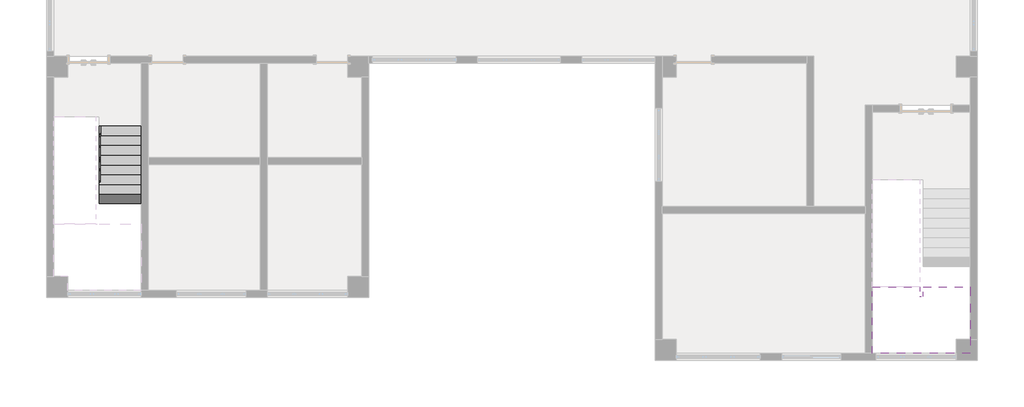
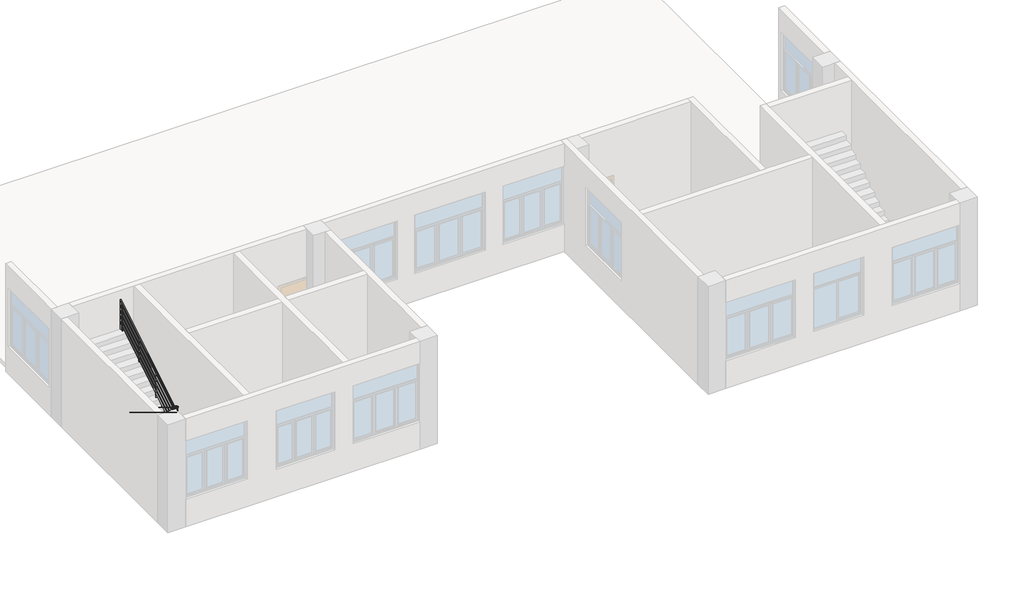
# One storey, part 2 of 3: 1 railing, 1 slab, 1 stair flight.
"""IFC4 building model written with IfcOpenShell, lengths in millimetres."""

from ifc_helpers import new_model, si_unit, point, frame, frame_2d, origin, place, context, project, spatial, circle_curve, ellipse_curve, trimmed, segment, composite_curve, outline, extrude, faceted_brep, element, save
from ifc_brep_helpers import plane_surface, cylinder_surface, advanced_brep

model = new_model("IFC4")

# Units and contexts
model_context = context("Model", 3, world=origin())
ifc_project = project(units=[si_unit("LENGTHUNIT", "METRE", prefix="MILLI")], contexts=[model_context])

# Site, building, storey
site = spatial("IfcSite", under=ifc_project)
building = spatial("IfcBuilding", under=site)
storey = spatial("IfcBuildingStorey", under=building, Name="标高 5", Elevation=11000.0)

# Railing
placement = place(None, origin())
element("IfcRailing", 1, ObjectType="900mm 圆管", at=placement, inside=storey, context=model_context, shape_type="SolidModel", body=[
    advanced_brep(
    [(-11176.3675258, -3836.6725016, 12046.183692), (-11136.3675258, -3836.6725016, 12046.183692), (-11176.3675258, -6629.9251242, 13737.7497212), (-11136.3675258, -6664.1401717, 13758.4700139)],
    [
        (0, 1, ellipse_curve(frame((-11156.3675258, -3836.6725016, 12046.183692), z_axis=(0.0, 1.0, 0.0), x_axis=(0.0, 0.0, -1.0)), 23.3815254, 20.0)),
        (1, 0, ellipse_curve(frame((-11156.3675258, -3836.6725016, 12046.183692), z_axis=(0.0, 1.0, 0.0), x_axis=(0.0, 0.0, -1.0)), 23.3815254, 20.0)),
        (2, 3, ellipse_curve(frame((-11156.3675258, -6647.032648, 13748.1098676), z_axis=(-0.707106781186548, -0.6048423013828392, 0.3662864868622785), x_axis=(-0.7071067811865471, 0.6048423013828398, -0.3662864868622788)), 28.2842712, 20.0)),
        (3, 2, ellipse_curve(frame((-11156.3675258, -6647.032648, 13748.1098676), z_axis=(-0.707106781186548, -0.6048423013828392, 0.3662864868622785), x_axis=(-0.7071067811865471, 0.6048423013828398, -0.3662864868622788)), 28.2842712, 20.0)),
        (0, 2),
        (3, 1),
    ],
    [
        plane_surface(frame((-11156.3675258, -3836.6725016, 12069.5652174), z_axis=(0.0, 1.0, 0.0), x_axis=(0.0, 0.0, -1.0))),
        plane_surface(frame((-11156.3675258, -6636.6725016, 13765.2173913), z_axis=(-0.707106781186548, -0.6048423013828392, 0.3662864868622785), x_axis=(0.7071067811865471, -0.60484230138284, 0.3662864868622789))),
        cylinder_surface(frame((-11156.3675258, -3847.032648, 12052.4576937), z_axis=(0.0, 0.8553761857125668, -0.518007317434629), x_axis=(1.0, 0.0, 0.0)), 20.0),
    ],
    [
        (0, [[1, 2]]),
        (1, [[3, 4]]),
        (2, [[-1, 5, -4, 6]]),
        (2, [[-2, -6, -3, -5]]),
    ],
),
    advanced_brep(
    [(-11183.8351959, -6642.0725016, 13745.2173913), (-11149.6201485, -6682.0725016, 13745.2173913), (-11307.1675258, -6642.0725016, 13745.2173913), (-11307.1675258, -6682.0725016, 13745.2173913)],
    [
        (0, 1, ellipse_curve(frame((-11166.7276722, -6662.0725016, 13745.2173913), z_axis=(0.707106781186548, 0.6048423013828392, -0.3662864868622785), x_axis=(0.707106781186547, -0.60484230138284, 0.36628648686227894)), 28.2842712, 20.0)),
        (1, 0, ellipse_curve(frame((-11166.7276722, -6662.0725016, 13745.2173913), z_axis=(0.707106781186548, 0.6048423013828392, -0.3662864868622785), x_axis=(0.707106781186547, -0.60484230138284, 0.36628648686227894)), 28.2842712, 20.0)),
        (2, 3, ellipse_curve(frame((-11307.1675258, -6662.0725016, 13745.2173913), z_axis=(-0.7071067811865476, 0.0, 0.7071067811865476), x_axis=(0.7071067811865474, 0.0, 0.7071067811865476)), 28.2842712, 20.0)),
        (3, 2, ellipse_curve(frame((-11307.1675258, -6662.0725016, 13745.2173913), z_axis=(-0.7071067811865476, 0.0, 0.7071067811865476), x_axis=(0.7071067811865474, 0.0, 0.7071067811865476)), 28.2842712, 20.0)),
        (0, 2),
        (3, 1),
    ],
    [
        plane_surface(frame((-11156.3675258, -6662.0725016, 13765.2173913), z_axis=(0.707106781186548, 0.6048423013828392, -0.3662864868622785), x_axis=(0.7071067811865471, -0.60484230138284, 0.3662864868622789))),
        plane_surface(frame((-11287.1675258, -6662.0725016, 13765.2173913), z_axis=(-0.7071067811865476, 0.0, 0.7071067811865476), x_axis=(0.7071067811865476, 0.0, 0.7071067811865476))),
        cylinder_surface(frame((-11156.3675258, -6662.0725016, 13745.2173913), z_axis=(1.0, 0.0, 0.0), x_axis=(0.0, -1.0, 0.0)), 20.0),
    ],
    [
        (0, [[1, 2]]),
        (1, [[3, 4]]),
        (2, [[-1, 5, -4, 6]]),
        (2, [[-2, -6, -3, -5]]),
    ],
),
    advanced_brep(
    [(-11307.1675258, -6642.0725016, 13745.2173913), (-11307.1675258, -6682.0725016, 13745.2173913), (-11307.1675258, -6642.0725016, 13884.7493716), (-11307.1675258, -6682.0725016, 13907.2888199)],
    [
        (0, 1, ellipse_curve(frame((-11307.1675258, -6662.0725016, 13745.2173913), z_axis=(0.7071067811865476, 0.0, -0.7071067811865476), x_axis=(-0.7071067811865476, 0.0, -0.7071067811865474)), 28.2842712, 20.0)),
        (1, 0, ellipse_curve(frame((-11307.1675258, -6662.0725016, 13745.2173913), z_axis=(0.7071067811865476, 0.0, -0.7071067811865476), x_axis=(-0.7071067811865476, 0.0, -0.7071067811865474)), 28.2842712, 20.0)),
        (2, 3, ellipse_curve(frame((-11307.1675258, -6662.0725016, 13896.0190957), z_axis=(0.0, 0.49091378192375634, 0.8712081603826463), x_axis=(0.0, 0.8712081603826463, -0.4909137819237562)), 22.9566261, 20.0)),
        (3, 2, ellipse_curve(frame((-11307.1675258, -6662.0725016, 13896.0190957), z_axis=(0.0, 0.49091378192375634, 0.8712081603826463), x_axis=(0.0, 0.8712081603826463, -0.4909137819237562)), 22.9566261, 20.0)),
        (0, 2),
        (3, 1),
    ],
    [
        plane_surface(frame((-11307.1675258, -6662.0725016, 13745.2173913), z_axis=(0.7071067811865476, 0.0, -0.7071067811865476), x_axis=(0.7071067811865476, 0.0, 0.7071067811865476))),
        plane_surface(frame((-11307.1675258, -6662.0725016, 13896.0190957), z_axis=(0.0, 0.49091378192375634, 0.8712081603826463), x_axis=(1.0, 0.0, 0.0))),
        cylinder_surface(frame((-11307.1675258, -6662.0725016, 13745.2173913), z_axis=(0.0, 0.0, -1.0), x_axis=(0.0, -1.0, 0.0)), 20.0),
    ],
    [
        (0, [[1, 2]]),
        (1, [[3, 4]]),
        (2, [[-1, 5, -4, 6]]),
        (2, [[-2, -6, -3, -5]]),
    ],
),
    advanced_brep(
    [(-11287.1675258, -6662.0725016, 13896.0190957), (-11327.1675258, -6662.0725016, 13896.0190957), (-11287.1675258, -3556.6725016, 15776.6184746), (-11327.1675258, -3556.6725016, 15776.6184746)],
    [
        (0, 1, ellipse_curve(frame((-11307.1675258, -6662.0725016, 13896.0190957), z_axis=(0.0, -0.49091378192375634, -0.8712081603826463), x_axis=(0.0, -0.871208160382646, 0.4909137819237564)), 22.9566261, 20.0)),
        (1, 0, ellipse_curve(frame((-11307.1675258, -6662.0725016, 13896.0190957), z_axis=(0.0, -0.49091378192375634, -0.8712081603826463), x_axis=(0.0, -0.871208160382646, 0.4909137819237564)), 22.9566261, 20.0)),
        (2, 3, ellipse_curve(frame((-11307.1675258, -3556.6725016, 15776.6184746), z_axis=(0.0, 1.0, 0.0), x_axis=(0.0, 0.0, -1.0)), 23.3815254, 20.0)),
        (3, 2, ellipse_curve(frame((-11307.1675258, -3556.6725016, 15776.6184746), z_axis=(0.0, 1.0, 0.0), x_axis=(0.0, 0.0, -1.0)), 23.3815254, 20.0)),
        (0, 2),
        (3, 1),
    ],
    [
        plane_surface(frame((-11307.1675258, -6682.0725016, 13907.2888199), z_axis=(0.0, -0.49091378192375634, -0.8712081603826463), x_axis=(1.0, 0.0, 0.0))),
        plane_surface(frame((-11307.1675258, -3556.6725016, 15800.0), z_axis=(0.0, 1.0, 0.0), x_axis=(0.0, 0.0, 1.0))),
        cylinder_surface(frame((-11307.1675258, -6671.7123553, 13890.1812962), z_axis=(0.0, -0.8553761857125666, -0.5180073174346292), x_axis=(-1.0, 0.0, 0.0)), 20.0),
    ],
    [
        (0, [[1, 2]]),
        (1, [[3, 4]]),
        (2, [[-1, 5, -4, 6]]),
        (2, [[-2, -6, -3, -5]]),
    ],
),
    advanced_brep(
    [(-11141.3675258, -3836.6725016, 11852.0290734), (-11171.3675258, -3836.6725016, 11852.0290734), (-11141.3675258, -6640.8603907, 13550.2173913), (-11171.3675258, -6640.8603907, 13550.2173913), (-11141.3675258, -6647.0725016, 13550.2173913), (-11171.3675258, -6647.0725016, 13550.2173913)],
    [
        (0, 1, ellipse_curve(frame((-11156.3675258, -3836.6725016, 11852.0290734), z_axis=(0.0, 1.0, 0.0), x_axis=(0.0, 0.0, -1.0)), 17.536144, 15.0)),
        (1, 0, ellipse_curve(frame((-11156.3675258, -3836.6725016, 11852.0290734), z_axis=(0.0, 1.0, 0.0), x_axis=(0.0, 0.0, -1.0)), 17.536144, 15.0)),
        (0, 2),
        (2, 3, ellipse_curve(frame((-11156.3675258, -6640.8603907, 13550.2173913), z_axis=(0.0, 0.9631656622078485, -0.26890873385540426), x_axis=(0.0, -0.26890873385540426, -0.9631656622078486)), 15.5736449, 15.0)),
        (3, 1),
        (3, 2, ellipse_curve(frame((-11156.3675258, -6640.8603907, 13550.2173913), z_axis=(0.0, 0.9631656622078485, -0.26890873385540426), x_axis=(0.0, -0.26890873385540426, -0.9631656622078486)), 15.5736449, 15.0)),
        (4, 5, circle_curve(frame((-11156.3675258, -6647.0725016, 13550.2173913), z_axis=(0.0, -1.0, 0.0), x_axis=(-1.0, 0.0, 0.0)), 15.0)),
        (5, 4, circle_curve(frame((-11156.3675258, -6647.0725016, 13550.2173913), z_axis=(0.0, -1.0, 0.0), x_axis=(-1.0, 0.0, 0.0)), 15.0)),
        (2, 4),
        (5, 3),
    ],
    [
        plane_surface(frame((-11156.3675258, -3836.6725016, 11869.5652174), z_axis=(0.0, 1.0, 0.0), x_axis=(0.0, 0.0, -1.0))),
        cylinder_surface(frame((-11156.3675258, -3844.4426114, 11856.7345746), z_axis=(0.0, 0.8553761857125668, -0.518007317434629), x_axis=(-1.0, 0.0, 0.0)), 15.0),
        plane_surface(frame((-11156.3675258, -6647.0725016, 13565.2173913), z_axis=(0.0, -1.0, 0.0), x_axis=(0.0, 0.0, -1.0))),
        cylinder_surface(frame((-11156.3675258, -6636.6725016, 13550.2173913), z_axis=(0.0, 1.0, 0.0), x_axis=(-1.0, 0.0, 0.0)), 15.0),
    ],
    [
        (0, [[1, 2]]),
        (1, [[-1, 3, 4, 5]]),
        (1, [[-2, -5, 6, -3]]),
        (2, [[7, 8]]),
        (3, [[-4, 9, -8, 10]]),
        (3, [[-6, -10, -7, -9]]),
    ],
),
    advanced_brep(
    [(-11141.3675258, -3836.6725016, 11652.0290734), (-11171.3675258, -3836.6725016, 11652.0290734), (-11141.3675258, -6640.8603907, 13350.2173913), (-11171.3675258, -6640.8603907, 13350.2173913), (-11141.3675258, -6647.0725016, 13350.2173913), (-11171.3675258, -6647.0725016, 13350.2173913)],
    [
        (0, 1, ellipse_curve(frame((-11156.3675258, -3836.6725016, 11652.0290734), z_axis=(0.0, 1.0, 0.0), x_axis=(0.0, 0.0, -1.0)), 17.536144, 15.0)),
        (1, 0, ellipse_curve(frame((-11156.3675258, -3836.6725016, 11652.0290734), z_axis=(0.0, 1.0, 0.0), x_axis=(0.0, 0.0, -1.0)), 17.536144, 15.0)),
        (0, 2),
        (2, 3, ellipse_curve(frame((-11156.3675258, -6640.8603907, 13350.2173913), z_axis=(0.0, 0.9631656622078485, -0.26890873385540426), x_axis=(0.0, -0.26890873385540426, -0.9631656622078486)), 15.5736449, 15.0)),
        (3, 1),
        (3, 2, ellipse_curve(frame((-11156.3675258, -6640.8603907, 13350.2173913), z_axis=(0.0, 0.9631656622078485, -0.26890873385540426), x_axis=(0.0, -0.26890873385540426, -0.9631656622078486)), 15.5736449, 15.0)),
        (4, 5, circle_curve(frame((-11156.3675258, -6647.0725016, 13350.2173913), z_axis=(0.0, -1.0, 0.0), x_axis=(-1.0, 0.0, 0.0)), 15.0)),
        (5, 4, circle_curve(frame((-11156.3675258, -6647.0725016, 13350.2173913), z_axis=(0.0, -1.0, 0.0), x_axis=(-1.0, 0.0, 0.0)), 15.0)),
        (2, 4),
        (5, 3),
    ],
    [
        plane_surface(frame((-11156.3675258, -3836.6725016, 11669.5652174), z_axis=(0.0, 1.0, 0.0), x_axis=(0.0, 0.0, -1.0))),
        cylinder_surface(frame((-11156.3675258, -3844.4426114, 11656.7345746), z_axis=(0.0, 0.8553761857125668, -0.518007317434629), x_axis=(-1.0, 0.0, 0.0)), 15.0),
        plane_surface(frame((-11156.3675258, -6647.0725016, 13365.2173913), z_axis=(0.0, -1.0, 0.0), x_axis=(0.0, 0.0, -1.0))),
        cylinder_surface(frame((-11156.3675258, -6636.6725016, 13350.2173913), z_axis=(0.0, 1.0, 0.0), x_axis=(-1.0, 0.0, 0.0)), 15.0),
    ],
    [
        (0, [[1, 2]]),
        (1, [[-1, 3, 4, 5]]),
        (1, [[-2, -5, 6, -3]]),
        (2, [[7, 8]]),
        (3, [[-4, 9, -8, 10]]),
        (3, [[-6, -10, -7, -9]]),
    ],
),
    advanced_brep(
    [(-11141.3675258, -3836.6725016, 11452.0290734), (-11171.3675258, -3836.6725016, 11452.0290734), (-11141.3675258, -6640.8603907, 13150.2173913), (-11171.3675258, -6640.8603907, 13150.2173913), (-11141.3675258, -6647.0725016, 13150.2173913), (-11171.3675258, -6647.0725016, 13150.2173913)],
    [
        (0, 1, ellipse_curve(frame((-11156.3675258, -3836.6725016, 11452.0290734), z_axis=(0.0, 1.0, 0.0), x_axis=(0.0, 0.0, -1.0)), 17.536144, 15.0)),
        (1, 0, ellipse_curve(frame((-11156.3675258, -3836.6725016, 11452.0290734), z_axis=(0.0, 1.0, 0.0), x_axis=(0.0, 0.0, -1.0)), 17.536144, 15.0)),
        (0, 2),
        (2, 3, ellipse_curve(frame((-11156.3675258, -6640.8603907, 13150.2173913), z_axis=(0.0, 0.9631656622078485, -0.26890873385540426), x_axis=(0.0, -0.26890873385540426, -0.9631656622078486)), 15.5736449, 15.0)),
        (3, 1),
        (3, 2, ellipse_curve(frame((-11156.3675258, -6640.8603907, 13150.2173913), z_axis=(0.0, 0.9631656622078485, -0.26890873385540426), x_axis=(0.0, -0.26890873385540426, -0.9631656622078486)), 15.5736449, 15.0)),
        (4, 5, circle_curve(frame((-11156.3675258, -6647.0725016, 13150.2173913), z_axis=(0.0, -1.0, 0.0), x_axis=(-1.0, 0.0, 0.0)), 15.0)),
        (5, 4, circle_curve(frame((-11156.3675258, -6647.0725016, 13150.2173913), z_axis=(0.0, -1.0, 0.0), x_axis=(-1.0, 0.0, 0.0)), 15.0)),
        (2, 4),
        (5, 3),
    ],
    [
        plane_surface(frame((-11156.3675258, -3836.6725016, 11469.5652174), z_axis=(0.0, 1.0, 0.0), x_axis=(0.0, 0.0, -1.0))),
        cylinder_surface(frame((-11156.3675258, -3844.4426114, 11456.7345746), z_axis=(0.0, 0.8553761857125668, -0.518007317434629), x_axis=(-1.0, 0.0, 0.0)), 15.0),
        plane_surface(frame((-11156.3675258, -6647.0725016, 13165.2173913), z_axis=(0.0, -1.0, 0.0), x_axis=(0.0, 0.0, -1.0))),
        cylinder_surface(frame((-11156.3675258, -6636.6725016, 13150.2173913), z_axis=(0.0, 1.0, 0.0), x_axis=(-1.0, 0.0, 0.0)), 15.0),
    ],
    [
        (0, [[1, 2]]),
        (1, [[-1, 3, 4, 5]]),
        (1, [[-2, -5, 6, -3]]),
        (2, [[7, 8]]),
        (3, [[-4, 9, -8, 10]]),
        (3, [[-6, -10, -7, -9]]),
    ],
),
    advanced_brep(
    [(-11141.3675258, -3836.6725016, 11252.0290734), (-11171.3675258, -3836.6725016, 11252.0290734), (-11141.3675258, -6640.8603907, 12950.2173913), (-11171.3675258, -6640.8603907, 12950.2173913), (-11141.3675258, -6647.0725016, 12950.2173913), (-11171.3675258, -6647.0725016, 12950.2173913)],
    [
        (0, 1, ellipse_curve(frame((-11156.3675258, -3836.6725016, 11252.0290734), z_axis=(0.0, 1.0, 0.0), x_axis=(0.0, 0.0, -1.0)), 17.536144, 15.0)),
        (1, 0, ellipse_curve(frame((-11156.3675258, -3836.6725016, 11252.0290734), z_axis=(0.0, 1.0, 0.0), x_axis=(0.0, 0.0, -1.0)), 17.536144, 15.0)),
        (0, 2),
        (2, 3, ellipse_curve(frame((-11156.3675258, -6640.8603907, 12950.2173913), z_axis=(0.0, 0.9631656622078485, -0.26890873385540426), x_axis=(0.0, -0.26890873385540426, -0.9631656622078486)), 15.5736449, 15.0)),
        (3, 1),
        (3, 2, ellipse_curve(frame((-11156.3675258, -6640.8603907, 12950.2173913), z_axis=(0.0, 0.9631656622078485, -0.26890873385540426), x_axis=(0.0, -0.26890873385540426, -0.9631656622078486)), 15.5736449, 15.0)),
        (4, 5, circle_curve(frame((-11156.3675258, -6647.0725016, 12950.2173913), z_axis=(0.0, -1.0, 0.0), x_axis=(-1.0, 0.0, 0.0)), 15.0)),
        (5, 4, circle_curve(frame((-11156.3675258, -6647.0725016, 12950.2173913), z_axis=(0.0, -1.0, 0.0), x_axis=(-1.0, 0.0, 0.0)), 15.0)),
        (2, 4),
        (5, 3),
    ],
    [
        plane_surface(frame((-11156.3675258, -3836.6725016, 11269.5652174), z_axis=(0.0, 1.0, 0.0), x_axis=(0.0, 0.0, -1.0))),
        cylinder_surface(frame((-11156.3675258, -3844.4426114, 11256.7345746), z_axis=(0.0, 0.8553761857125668, -0.518007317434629), x_axis=(-1.0, 0.0, 0.0)), 15.0),
        plane_surface(frame((-11156.3675258, -6647.0725016, 12965.2173913), z_axis=(0.0, -1.0, 0.0), x_axis=(0.0, 0.0, -1.0))),
        cylinder_surface(frame((-11156.3675258, -6636.6725016, 12950.2173913), z_axis=(0.0, 1.0, 0.0), x_axis=(-1.0, 0.0, 0.0)), 15.0),
    ],
    [
        (0, [[1, 2]]),
        (1, [[-1, 3, 4, 5]]),
        (1, [[-2, -5, 6, -3]]),
        (2, [[7, 8]]),
        (3, [[-4, 9, -8, 10]]),
        (3, [[-6, -10, -7, -9]]),
    ],
),
    advanced_brep(
    [(-11141.3675258, -6677.0725016, 13550.2173913), (-11141.3675258, -6647.0725016, 13550.2173913), (-11292.1675258, -6677.0725016, 13550.2173913), (-11292.1675258, -6647.0725016, 13550.2173913)],
    [
        (0, 1, circle_curve(frame((-11141.3675258, -6662.0725016, 13550.2173913), z_axis=(1.0, 0.0, 0.0), x_axis=(0.0, 1.0, 0.0)), 15.0)),
        (1, 0, circle_curve(frame((-11141.3675258, -6662.0725016, 13550.2173913), z_axis=(1.0, 0.0, 0.0), x_axis=(0.0, 1.0, 0.0)), 15.0)),
        (2, 3, circle_curve(frame((-11292.1675258, -6662.0725016, 13550.2173913), z_axis=(-1.0, 0.0, 0.0), x_axis=(0.0, 1.0, 0.0)), 15.0)),
        (3, 2, circle_curve(frame((-11292.1675258, -6662.0725016, 13550.2173913), z_axis=(-1.0, 0.0, 0.0), x_axis=(0.0, 1.0, 0.0)), 15.0)),
        (0, 2),
        (3, 1),
    ],
    [
        plane_surface(frame((-11141.3675258, -6662.0725016, 13565.2173913), z_axis=(1.0, 0.0, 0.0), x_axis=(0.0, -1.0, 0.0))),
        plane_surface(frame((-11292.1675258, -6662.0725016, 13565.2173913), z_axis=(-1.0, 0.0, 0.0), x_axis=(0.0, -1.0, 0.0))),
        cylinder_surface(frame((-11141.3675258, -6662.0725016, 13550.2173913), z_axis=(1.0, 0.0, 0.0), x_axis=(0.0, 1.0, 0.0)), 15.0),
    ],
    [
        (0, [[1, 2]]),
        (1, [[3, 4]]),
        (2, [[-1, 5, -4, 6]]),
        (2, [[-2, -6, -3, -5]]),
    ],
),
    advanced_brep(
    [(-11322.1675258, -6677.0725016, 13692.7806261), (-11292.1675258, -6677.0725016, 13692.7806261), (-11322.1675258, -3556.6725016, 15582.463856), (-11292.1675258, -3556.6725016, 15582.463856)],
    [
        (0, 1, ellipse_curve(frame((-11307.1675258, -6677.0725016, 13692.7806261), z_axis=(0.0, -1.0, 0.0), x_axis=(0.0, 0.0, -1.0)), 17.536144, 15.0)),
        (1, 0, ellipse_curve(frame((-11307.1675258, -6677.0725016, 13692.7806261), z_axis=(0.0, -1.0, 0.0), x_axis=(0.0, 0.0, -1.0)), 17.536144, 15.0)),
        (2, 3, ellipse_curve(frame((-11307.1675258, -3556.6725016, 15582.463856), z_axis=(0.0, 1.0, 0.0), x_axis=(0.0, 0.0, -1.0)), 17.536144, 15.0)),
        (3, 2, ellipse_curve(frame((-11307.1675258, -3556.6725016, 15582.463856), z_axis=(0.0, 1.0, 0.0), x_axis=(0.0, 0.0, -1.0)), 17.536144, 15.0)),
        (0, 2),
        (3, 1),
    ],
    [
        plane_surface(frame((-11307.1675258, -6677.0725016, 13710.3167702), z_axis=(0.0, -1.0, 0.0), x_axis=(0.0, 0.0, 1.0))),
        plane_surface(frame((-11307.1675258, -3556.6725016, 15600.0), z_axis=(0.0, 1.0, 0.0), x_axis=(0.0, 0.0, 1.0))),
        cylinder_surface(frame((-11307.1675258, -6669.3023918, 13697.4861274), z_axis=(0.0, -0.8553761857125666, -0.5180073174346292), x_axis=(1.0, 0.0, 0.0)), 15.0),
    ],
    [
        (0, [[1, 2]]),
        (1, [[3, 4]]),
        (2, [[-1, 5, -4, 6]]),
        (2, [[-2, -6, -3, -5]]),
    ],
),
    advanced_brep(
    [(-11141.3675258, -6677.0725016, 13350.2173913), (-11141.3675258, -6647.0725016, 13350.2173913), (-11292.1675258, -6677.0725016, 13350.2173913), (-11292.1675258, -6647.0725016, 13350.2173913)],
    [
        (0, 1, circle_curve(frame((-11141.3675258, -6662.0725016, 13350.2173913), z_axis=(1.0, 0.0, 0.0), x_axis=(0.0, 1.0, 0.0)), 15.0)),
        (1, 0, circle_curve(frame((-11141.3675258, -6662.0725016, 13350.2173913), z_axis=(1.0, 0.0, 0.0), x_axis=(0.0, 1.0, 0.0)), 15.0)),
        (2, 3, circle_curve(frame((-11292.1675258, -6662.0725016, 13350.2173913), z_axis=(-1.0, 0.0, 0.0), x_axis=(0.0, 1.0, 0.0)), 15.0)),
        (3, 2, circle_curve(frame((-11292.1675258, -6662.0725016, 13350.2173913), z_axis=(-1.0, 0.0, 0.0), x_axis=(0.0, 1.0, 0.0)), 15.0)),
        (0, 2),
        (3, 1),
    ],
    [
        plane_surface(frame((-11141.3675258, -6662.0725016, 13365.2173913), z_axis=(1.0, 0.0, 0.0), x_axis=(0.0, -1.0, 0.0))),
        plane_surface(frame((-11292.1675258, -6662.0725016, 13365.2173913), z_axis=(-1.0, 0.0, 0.0), x_axis=(0.0, -1.0, 0.0))),
        cylinder_surface(frame((-11141.3675258, -6662.0725016, 13350.2173913), z_axis=(1.0, 0.0, 0.0), x_axis=(0.0, 1.0, 0.0)), 15.0),
    ],
    [
        (0, [[1, 2]]),
        (1, [[3, 4]]),
        (2, [[-1, 5, -4, 6]]),
        (2, [[-2, -6, -3, -5]]),
    ],
),
    advanced_brep(
    [(-11322.1675258, -6677.0725016, 13492.7806261), (-11292.1675258, -6677.0725016, 13492.7806261), (-11322.1675258, -3556.6725016, 15382.463856), (-11292.1675258, -3556.6725016, 15382.463856)],
    [
        (0, 1, ellipse_curve(frame((-11307.1675258, -6677.0725016, 13492.7806261), z_axis=(0.0, -1.0, 0.0), x_axis=(0.0, 0.0, -1.0)), 17.536144, 15.0)),
        (1, 0, ellipse_curve(frame((-11307.1675258, -6677.0725016, 13492.7806261), z_axis=(0.0, -1.0, 0.0), x_axis=(0.0, 0.0, -1.0)), 17.536144, 15.0)),
        (2, 3, ellipse_curve(frame((-11307.1675258, -3556.6725016, 15382.463856), z_axis=(0.0, 1.0, 0.0), x_axis=(0.0, 0.0, -1.0)), 17.536144, 15.0)),
        (3, 2, ellipse_curve(frame((-11307.1675258, -3556.6725016, 15382.463856), z_axis=(0.0, 1.0, 0.0), x_axis=(0.0, 0.0, -1.0)), 17.536144, 15.0)),
        (0, 2),
        (3, 1),
    ],
    [
        plane_surface(frame((-11307.1675258, -6677.0725016, 13510.3167702), z_axis=(0.0, -1.0, 0.0), x_axis=(0.0, 0.0, 1.0))),
        plane_surface(frame((-11307.1675258, -3556.6725016, 15400.0), z_axis=(0.0, 1.0, 0.0), x_axis=(0.0, 0.0, 1.0))),
        cylinder_surface(frame((-11307.1675258, -6669.3023918, 13497.4861274), z_axis=(0.0, -0.8553761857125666, -0.5180073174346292), x_axis=(1.0, 0.0, 0.0)), 15.0),
    ],
    [
        (0, [[1, 2]]),
        (1, [[3, 4]]),
        (2, [[-1, 5, -4, 6]]),
        (2, [[-2, -6, -3, -5]]),
    ],
),
    advanced_brep(
    [(-11141.3675258, -6677.0725016, 13150.2173913), (-11141.3675258, -6647.0725016, 13150.2173913), (-11292.1675258, -6677.0725016, 13150.2173913), (-11292.1675258, -6647.0725016, 13150.2173913)],
    [
        (0, 1, circle_curve(frame((-11141.3675258, -6662.0725016, 13150.2173913), z_axis=(1.0, 0.0, 0.0), x_axis=(0.0, 1.0, 0.0)), 15.0)),
        (1, 0, circle_curve(frame((-11141.3675258, -6662.0725016, 13150.2173913), z_axis=(1.0, 0.0, 0.0), x_axis=(0.0, 1.0, 0.0)), 15.0)),
        (2, 3, circle_curve(frame((-11292.1675258, -6662.0725016, 13150.2173913), z_axis=(-1.0, 0.0, 0.0), x_axis=(0.0, 1.0, 0.0)), 15.0)),
        (3, 2, circle_curve(frame((-11292.1675258, -6662.0725016, 13150.2173913), z_axis=(-1.0, 0.0, 0.0), x_axis=(0.0, 1.0, 0.0)), 15.0)),
        (0, 2),
        (3, 1),
    ],
    [
        plane_surface(frame((-11141.3675258, -6662.0725016, 13165.2173913), z_axis=(1.0, 0.0, 0.0), x_axis=(0.0, -1.0, 0.0))),
        plane_surface(frame((-11292.1675258, -6662.0725016, 13165.2173913), z_axis=(-1.0, 0.0, 0.0), x_axis=(0.0, -1.0, 0.0))),
        cylinder_surface(frame((-11141.3675258, -6662.0725016, 13150.2173913), z_axis=(1.0, 0.0, 0.0), x_axis=(0.0, 1.0, 0.0)), 15.0),
    ],
    [
        (0, [[1, 2]]),
        (1, [[3, 4]]),
        (2, [[-1, 5, -4, 6]]),
        (2, [[-2, -6, -3, -5]]),
    ],
),
    advanced_brep(
    [(-11322.1675258, -6677.0725016, 13292.7806261), (-11292.1675258, -6677.0725016, 13292.7806261), (-11322.1675258, -3556.6725016, 15182.463856), (-11292.1675258, -3556.6725016, 15182.463856)],
    [
        (0, 1, ellipse_curve(frame((-11307.1675258, -6677.0725016, 13292.7806261), z_axis=(0.0, -1.0, 0.0), x_axis=(0.0, 0.0, -1.0)), 17.536144, 15.0)),
        (1, 0, ellipse_curve(frame((-11307.1675258, -6677.0725016, 13292.7806261), z_axis=(0.0, -1.0, 0.0), x_axis=(0.0, 0.0, -1.0)), 17.536144, 15.0)),
        (2, 3, ellipse_curve(frame((-11307.1675258, -3556.6725016, 15182.463856), z_axis=(0.0, 1.0, 0.0), x_axis=(0.0, 0.0, -1.0)), 17.536144, 15.0)),
        (3, 2, ellipse_curve(frame((-11307.1675258, -3556.6725016, 15182.463856), z_axis=(0.0, 1.0, 0.0), x_axis=(0.0, 0.0, -1.0)), 17.536144, 15.0)),
        (0, 2),
        (3, 1),
    ],
    [
        plane_surface(frame((-11307.1675258, -6677.0725016, 13310.3167702), z_axis=(0.0, -1.0, 0.0), x_axis=(0.0, 0.0, 1.0))),
        plane_surface(frame((-11307.1675258, -3556.6725016, 15200.0), z_axis=(0.0, 1.0, 0.0), x_axis=(0.0, 0.0, 1.0))),
        cylinder_surface(frame((-11307.1675258, -6669.3023918, 13297.4861274), z_axis=(0.0, -0.8553761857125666, -0.5180073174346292), x_axis=(1.0, 0.0, 0.0)), 15.0),
    ],
    [
        (0, [[1, 2]]),
        (1, [[3, 4]]),
        (2, [[-1, 5, -4, 6]]),
        (2, [[-2, -6, -3, -5]]),
    ],
),
    advanced_brep(
    [(-11141.3675258, -6677.0725016, 12950.2173913), (-11141.3675258, -6647.0725016, 12950.2173913), (-11292.1675258, -6677.0725016, 12950.2173913), (-11292.1675258, -6647.0725016, 12950.2173913)],
    [
        (0, 1, circle_curve(frame((-11141.3675258, -6662.0725016, 12950.2173913), z_axis=(1.0, 0.0, 0.0), x_axis=(0.0, 1.0, 0.0)), 15.0)),
        (1, 0, circle_curve(frame((-11141.3675258, -6662.0725016, 12950.2173913), z_axis=(1.0, 0.0, 0.0), x_axis=(0.0, 1.0, 0.0)), 15.0)),
        (2, 3, circle_curve(frame((-11292.1675258, -6662.0725016, 12950.2173913), z_axis=(-1.0, 0.0, 0.0), x_axis=(0.0, 1.0, 0.0)), 15.0)),
        (3, 2, circle_curve(frame((-11292.1675258, -6662.0725016, 12950.2173913), z_axis=(-1.0, 0.0, 0.0), x_axis=(0.0, 1.0, 0.0)), 15.0)),
        (0, 2),
        (3, 1),
    ],
    [
        plane_surface(frame((-11141.3675258, -6662.0725016, 12965.2173913), z_axis=(1.0, 0.0, 0.0), x_axis=(0.0, -1.0, 0.0))),
        plane_surface(frame((-11292.1675258, -6662.0725016, 12965.2173913), z_axis=(-1.0, 0.0, 0.0), x_axis=(0.0, -1.0, 0.0))),
        cylinder_surface(frame((-11141.3675258, -6662.0725016, 12950.2173913), z_axis=(1.0, 0.0, 0.0), x_axis=(0.0, 1.0, 0.0)), 15.0),
    ],
    [
        (0, [[1, 2]]),
        (1, [[3, 4]]),
        (2, [[-1, 5, -4, 6]]),
        (2, [[-2, -6, -3, -5]]),
    ],
),
    advanced_brep(
    [(-11322.1675258, -6677.0725016, 13092.7806261), (-11292.1675258, -6677.0725016, 13092.7806261), (-11322.1675258, -3556.6725016, 14982.463856), (-11292.1675258, -3556.6725016, 14982.463856)],
    [
        (0, 1, ellipse_curve(frame((-11307.1675258, -6677.0725016, 13092.7806261), z_axis=(0.0, -1.0, 0.0), x_axis=(0.0, 0.0, -1.0)), 17.536144, 15.0)),
        (1, 0, ellipse_curve(frame((-11307.1675258, -6677.0725016, 13092.7806261), z_axis=(0.0, -1.0, 0.0), x_axis=(0.0, 0.0, -1.0)), 17.536144, 15.0)),
        (2, 3, ellipse_curve(frame((-11307.1675258, -3556.6725016, 14982.463856), z_axis=(0.0, 1.0, 0.0), x_axis=(0.0, 0.0, -1.0)), 17.536144, 15.0)),
        (3, 2, ellipse_curve(frame((-11307.1675258, -3556.6725016, 14982.463856), z_axis=(0.0, 1.0, 0.0), x_axis=(0.0, 0.0, -1.0)), 17.536144, 15.0)),
        (0, 2),
        (3, 1),
    ],
    [
        plane_surface(frame((-11307.1675258, -6677.0725016, 13110.3167702), z_axis=(0.0, -1.0, 0.0), x_axis=(0.0, 0.0, 1.0))),
        plane_surface(frame((-11307.1675258, -3556.6725016, 15000.0), z_axis=(0.0, 1.0, 0.0), x_axis=(0.0, 0.0, 1.0))),
        cylinder_surface(frame((-11307.1675258, -6669.3023918, 13097.4861274), z_axis=(0.0, -0.8553761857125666, -0.5180073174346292), x_axis=(1.0, 0.0, 0.0)), 15.0),
    ],
    [
        (0, [[1, 2]]),
        (1, [[3, 4]]),
        (2, [[-1, 5, -4, 6]]),
        (2, [[-2, -6, -3, -5]]),
    ],
),
    advanced_brep(
    [(-11294.6675258, -3662.0725016, 15689.4077567), (-11294.6675258, -3662.0725016, 14730.4347826), (-11319.6675258, -3662.0725016, 14730.4347826), (-11319.6675258, -3662.0725016, 15689.4077567)],
    [
        (0, 1),
        (1, 2, circle_curve(frame((-11307.1675258, -3662.0725016, 14730.4347826), z_axis=(0.0, 0.0, 1.0), x_axis=(-1.0, 0.0, 0.0)), 12.5)),
        (2, 3),
        (3, 0, ellipse_curve(frame((-11307.1675258, -3662.0725016, 15689.4077567), z_axis=(0.0, 0.5180073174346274, -0.8553761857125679), x_axis=(0.0, 0.8553761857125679, 0.5180073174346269)), 14.6134534, 12.5)),
        (0, 3, ellipse_curve(frame((-11307.1675258, -3662.0725016, 15689.4077567), z_axis=(0.0, 0.5180073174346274, -0.8553761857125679), x_axis=(0.0, 0.8553761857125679, 0.5180073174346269)), 14.6134534, 12.5)),
        (2, 1, circle_curve(frame((-11307.1675258, -3662.0725016, 14730.4347826), z_axis=(0.0, 0.0, 1.0), x_axis=(-1.0, 0.0, 0.0)), 12.5)),
    ],
    [
        cylinder_surface(frame((-11307.1675258, -3662.0725016, 14630.4347826), z_axis=(0.0, 0.0, 1.0), x_axis=(-1.0, 0.0, 0.0)), 12.5),
        plane_surface(frame((-11332.1675258, -3637.0725016, 15704.5475082), z_axis=(0.0, -0.5180073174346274, 0.8553761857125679), x_axis=(1.0, 0.0, 0.0))),
        plane_surface(frame((-11332.1675258, -3687.0725016, 14730.4347826), z_axis=(0.0, 0.0, -1.0), x_axis=(1.0, 0.0, 0.0))),
    ],
    [
        (0, [[1, 2, 3, 4]]),
        (0, [[-1, 5, -3, 6]]),
        (1, [[-4, -5]]),
        (2, [[-2, -6]]),
    ],
),
    advanced_brep(
    [(-11294.6675258, -4662.0725016, 15083.8176946), (-11294.6675258, -4662.0725016, 14221.7391304), (-11319.6675258, -4662.0725016, 14221.7391304), (-11319.6675258, -4662.0725016, 15083.8176946)],
    [
        (0, 1),
        (1, 2, circle_curve(frame((-11307.1675258, -4662.0725016, 14221.7391304), z_axis=(0.0, 0.0, 1.0), x_axis=(-1.0, 0.0, 0.0)), 12.5)),
        (2, 3),
        (3, 0, ellipse_curve(frame((-11307.1675258, -4662.0725016, 15083.8176946), z_axis=(0.0, 0.518007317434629, -0.8553761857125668), x_axis=(0.0, 0.8553761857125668, 0.5180073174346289)), 14.6134534, 12.5)),
        (0, 3, ellipse_curve(frame((-11307.1675258, -4662.0725016, 15083.8176946), z_axis=(0.0, 0.518007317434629, -0.8553761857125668), x_axis=(0.0, 0.8553761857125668, 0.5180073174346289)), 14.6134534, 12.5)),
        (2, 1, circle_curve(frame((-11307.1675258, -4662.0725016, 14221.7391304), z_axis=(0.0, 0.0, 1.0), x_axis=(-1.0, 0.0, 0.0)), 12.5)),
    ],
    [
        cylinder_surface(frame((-11307.1675258, -4662.0725016, 14121.7391304), z_axis=(0.0, 0.0, 1.0), x_axis=(-1.0, 0.0, 0.0)), 12.5),
        plane_surface(frame((-11332.1675258, -4637.0725016, 15098.9574461), z_axis=(0.0, -0.518007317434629, 0.8553761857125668), x_axis=(1.0, 0.0, 0.0))),
        plane_surface(frame((-11332.1675258, -4687.0725016, 14221.7391304), z_axis=(0.0, 0.0, -1.0), x_axis=(1.0, 0.0, 0.0))),
    ],
    [
        (0, [[1, 2, 3, 4]]),
        (0, [[-1, 5, -3, 6]]),
        (1, [[-4, -5]]),
        (2, [[-2, -6]]),
    ],
),
    advanced_brep(
    [(-11294.6675258, -5662.0725016, 14478.2276325), (-11294.6675258, -5662.0725016, 13543.4782609), (-11319.6675258, -5662.0725016, 13543.4782609), (-11319.6675258, -5662.0725016, 14478.2276325)],
    [
        (0, 1),
        (1, 2, circle_curve(frame((-11307.1675258, -5662.0725016, 13543.4782609), z_axis=(0.0, 0.0, 1.0), x_axis=(-1.0, 0.0, 0.0)), 12.5)),
        (2, 3),
        (3, 0, ellipse_curve(frame((-11307.1675258, -5662.0725016, 14478.2276325), z_axis=(0.0, 0.518007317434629, -0.8553761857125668), x_axis=(0.0, 0.8553761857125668, 0.5180073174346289)), 14.6134534, 12.5)),
        (0, 3, ellipse_curve(frame((-11307.1675258, -5662.0725016, 14478.2276325), z_axis=(0.0, 0.518007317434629, -0.8553761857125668), x_axis=(0.0, 0.8553761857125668, 0.5180073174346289)), 14.6134534, 12.5)),
        (2, 1, circle_curve(frame((-11307.1675258, -5662.0725016, 13543.4782609), z_axis=(0.0, 0.0, 1.0), x_axis=(-1.0, 0.0, 0.0)), 12.5)),
    ],
    [
        cylinder_surface(frame((-11307.1675258, -5662.0725016, 13443.4782609), z_axis=(0.0, 0.0, 1.0), x_axis=(-1.0, 0.0, 0.0)), 12.5),
        plane_surface(frame((-11332.1675258, -5637.0725016, 14493.367384), z_axis=(0.0, -0.518007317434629, 0.8553761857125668), x_axis=(1.0, 0.0, 0.0))),
        plane_surface(frame((-11332.1675258, -5687.0725016, 13543.4782609), z_axis=(0.0, 0.0, -1.0), x_axis=(1.0, 0.0, 0.0))),
    ],
    [
        (0, [[1, 2, 3, 4]]),
        (0, [[-1, 5, -3, 6]]),
        (1, [[-4, -5]]),
        (2, [[-2, -6]]),
    ],
),
    advanced_brep(
    [(-11168.8675258, -5836.6725016, 13233.9822908), (-11168.8675258, -5836.6725016, 12356.5217391), (-11143.8675258, -5836.6725016, 12356.5217391), (-11143.8675258, -5836.6725016, 13233.9822908)],
    [
        (0, 1),
        (1, 2, circle_curve(frame((-11156.3675258, -5836.6725016, 12356.5217391), z_axis=(0.0, 0.0, 1.0), x_axis=(1.0, 0.0, 0.0)), 12.5)),
        (2, 3),
        (3, 0, ellipse_curve(frame((-11156.3675258, -5836.6725016, 13233.9822908), z_axis=(0.0, -0.5180073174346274, -0.8553761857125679), x_axis=(0.0, -0.8553761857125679, 0.5180073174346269)), 14.6134534, 12.5)),
        (0, 3, ellipse_curve(frame((-11156.3675258, -5836.6725016, 13233.9822908), z_axis=(0.0, -0.5180073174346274, -0.8553761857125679), x_axis=(0.0, -0.8553761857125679, 0.5180073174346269)), 14.6134534, 12.5)),
        (2, 1, circle_curve(frame((-11156.3675258, -5836.6725016, 12356.5217391), z_axis=(0.0, 0.0, 1.0), x_axis=(1.0, 0.0, 0.0)), 12.5)),
    ],
    [
        cylinder_surface(frame((-11156.3675258, -5836.6725016, 12256.5217391), z_axis=(0.0, 0.0, 1.0), x_axis=(1.0, 0.0, 0.0)), 12.5),
        plane_surface(frame((-11131.3675258, -5861.6725016, 13249.1220424), z_axis=(0.0, 0.5180073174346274, 0.8553761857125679), x_axis=(-1.0, 0.0, 0.0))),
        plane_surface(frame((-11131.3675258, -5811.6725016, 12356.5217391), z_axis=(0.0, 0.0, -1.0), x_axis=(-1.0, 0.0, 0.0))),
    ],
    [
        (0, [[1, 2, 3, 4]]),
        (0, [[-1, 5, -3, 6]]),
        (1, [[-4, -5]]),
        (2, [[-2, -6]]),
    ],
),
    advanced_brep(
    [(-11168.8675258, -4836.6725016, 12628.3922287), (-11168.8675258, -4836.6725016, 11678.2608696), (-11143.8675258, -4836.6725016, 11678.2608696), (-11143.8675258, -4836.6725016, 12628.3922287)],
    [
        (0, 1),
        (1, 2, circle_curve(frame((-11156.3675258, -4836.6725016, 11678.2608696), z_axis=(0.0, 0.0, 1.0), x_axis=(1.0, 0.0, 0.0)), 12.5)),
        (2, 3),
        (3, 0, ellipse_curve(frame((-11156.3675258, -4836.6725016, 12628.3922287), z_axis=(0.0, -0.518007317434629, -0.8553761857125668), x_axis=(0.0, -0.8553761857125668, 0.5180073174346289)), 14.6134534, 12.5)),
        (0, 3, ellipse_curve(frame((-11156.3675258, -4836.6725016, 12628.3922287), z_axis=(0.0, -0.518007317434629, -0.8553761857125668), x_axis=(0.0, -0.8553761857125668, 0.5180073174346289)), 14.6134534, 12.5)),
        (2, 1, circle_curve(frame((-11156.3675258, -4836.6725016, 11678.2608696), z_axis=(0.0, 0.0, 1.0), x_axis=(1.0, 0.0, 0.0)), 12.5)),
    ],
    [
        cylinder_surface(frame((-11156.3675258, -4836.6725016, 11578.2608696), z_axis=(0.0, 0.0, 1.0), x_axis=(1.0, 0.0, 0.0)), 12.5),
        plane_surface(frame((-11131.3675258, -4861.6725016, 12643.5319803), z_axis=(0.0, 0.518007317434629, 0.8553761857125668), x_axis=(-1.0, 0.0, 0.0))),
        plane_surface(frame((-11131.3675258, -4811.6725016, 11678.2608696), z_axis=(0.0, 0.0, -1.0), x_axis=(-1.0, 0.0, 0.0))),
    ],
    [
        (0, [[1, 2, 3, 4]]),
        (0, [[-1, 5, -3, 6]]),
        (1, [[-4, -5]]),
        (2, [[-2, -6]]),
    ],
),
    extrude(outline(composite_curve([segment(trimmed(circle_curve(frame_2d((-11307.1675258, -6662.0725016)), 12.5), [point((-11307.1675258, -6674.5725016))], [point((-11307.1675258, -6649.5725016))], False, "CARTESIAN"), True, "CONTINUOUS"), segment(trimmed(circle_curve(frame_2d((-11307.1675258, -6662.0725016)), 12.5), [point((-11307.1675258, -6649.5725016))], [point((-11307.1675258, -6674.5725016))], False, "CARTESIAN"), True, "CONTINUOUS")], self_intersect=False)), frame((0.0, 0.0, 12865.2173913), z_axis=(0.0, 0.0, 1.0), x_axis=(1.0, 0.0, 0.0)), (0.0, 0.0, 1.0), 860.0),
    advanced_brep(
    [(-11168.8675258, -6662.0725016, 13733.8363281), (-11168.8675258, -6662.0725016, 12865.2173913), (-11143.8675258, -6662.0725016, 12865.2173913), (-11143.8675258, -6662.0725016, 13733.8363281)],
    [
        (0, 1),
        (1, 2, circle_curve(frame((-11156.3675258, -6662.0725016, 12865.2173913), z_axis=(0.0, 0.0, 1.0), x_axis=(1.0, 0.0, 0.0)), 12.5)),
        (2, 3),
        (3, 0, ellipse_curve(frame((-11156.3675258, -6662.0725016, 13733.8363281), z_axis=(0.0, -0.518007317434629, -0.8553761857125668), x_axis=(0.0, -0.8553761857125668, 0.5180073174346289)), 14.6134534, 12.5)),
        (0, 3, ellipse_curve(frame((-11156.3675258, -6662.0725016, 13733.8363281), z_axis=(0.0, -0.518007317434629, -0.8553761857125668), x_axis=(0.0, -0.8553761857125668, 0.5180073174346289)), 14.6134534, 12.5)),
        (2, 1, circle_curve(frame((-11156.3675258, -6662.0725016, 12865.2173913), z_axis=(0.0, 0.0, 1.0), x_axis=(1.0, 0.0, 0.0)), 12.5)),
    ],
    [
        cylinder_surface(frame((-11156.3675258, -6662.0725016, 12765.2173913), z_axis=(0.0, 0.0, 1.0), x_axis=(1.0, 0.0, 0.0)), 12.5),
        plane_surface(frame((-11131.3675258, -6687.0725016, 13748.9760797), z_axis=(0.0, 0.518007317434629, 0.8553761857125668), x_axis=(-1.0, 0.0, 0.0))),
        plane_surface(frame((-11131.3675258, -6637.0725016, 12865.2173913), z_axis=(0.0, 0.0, -1.0), x_axis=(-1.0, 0.0, 0.0))),
    ],
    [
        (0, [[1, 2, 3, 4]]),
        (0, [[-1, 5, -3, 6]]),
        (1, [[-4, -5]]),
        (2, [[-2, -6]]),
    ],
),
    advanced_brep(
    [(-11294.6675258, -3569.1725016, 15745.6670735), (-11294.6675258, -3569.1725016, 14730.4347826), (-11319.6675258, -3569.1725016, 14730.4347826), (-11319.6675258, -3569.1725016, 15745.6670735)],
    [
        (0, 1),
        (1, 2, circle_curve(frame((-11307.1675258, -3569.1725016, 14730.4347826), z_axis=(0.0, 0.0, 1.0), x_axis=(-1.0, 0.0, 0.0)), 12.5)),
        (2, 3),
        (3, 0, ellipse_curve(frame((-11307.1675258, -3569.1725016, 15745.6670735), z_axis=(0.0, 0.518007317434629, -0.8553761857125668), x_axis=(0.0, 0.8553761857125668, 0.5180073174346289)), 14.6134534, 12.5)),
        (0, 3, ellipse_curve(frame((-11307.1675258, -3569.1725016, 15745.6670735), z_axis=(0.0, 0.518007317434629, -0.8553761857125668), x_axis=(0.0, 0.8553761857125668, 0.5180073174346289)), 14.6134534, 12.5)),
        (2, 1, circle_curve(frame((-11307.1675258, -3569.1725016, 14730.4347826), z_axis=(0.0, 0.0, 1.0), x_axis=(-1.0, 0.0, 0.0)), 12.5)),
    ],
    [
        cylinder_surface(frame((-11307.1675258, -3569.1725016, 14630.4347826), z_axis=(0.0, 0.0, 1.0), x_axis=(-1.0, 0.0, 0.0)), 12.5),
        plane_surface(frame((-11332.1675258, -3544.1725016, 15760.806825), z_axis=(0.0, -0.518007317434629, 0.8553761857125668), x_axis=(1.0, 0.0, 0.0))),
        plane_surface(frame((-11332.1675258, -3594.1725016, 14730.4347826), z_axis=(0.0, 0.0, -1.0), x_axis=(1.0, 0.0, 0.0))),
    ],
    [
        (0, [[1, 2, 3, 4]]),
        (0, [[-1, 5, -3, 6]]),
        (1, [[-4, -5]]),
        (2, [[-2, -6]]),
    ],
),
    advanced_brep(
    [(-11168.8675258, -3849.1725016, 12030.3720424), (-11168.8675258, -3849.1725016, 11169.5652174), (-11143.8675258, -3849.1725016, 11169.5652174), (-11143.8675258, -3849.1725016, 12030.3720424)],
    [
        (0, 1),
        (1, 2, circle_curve(frame((-11156.3675258, -3849.1725016, 11169.5652174), z_axis=(0.0, 0.0, 1.0), x_axis=(1.0, 0.0, 0.0)), 12.5)),
        (2, 3),
        (3, 0, ellipse_curve(frame((-11156.3675258, -3849.1725016, 12030.3720424), z_axis=(0.0, -0.518007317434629, -0.8553761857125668), x_axis=(0.0, -0.8553761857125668, 0.5180073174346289)), 14.6134534, 12.5)),
        (0, 3, ellipse_curve(frame((-11156.3675258, -3849.1725016, 12030.3720424), z_axis=(0.0, -0.518007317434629, -0.8553761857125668), x_axis=(0.0, -0.8553761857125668, 0.5180073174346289)), 14.6134534, 12.5)),
        (2, 1, circle_curve(frame((-11156.3675258, -3849.1725016, 11169.5652174), z_axis=(0.0, 0.0, 1.0), x_axis=(1.0, 0.0, 0.0)), 12.5)),
    ],
    [
        cylinder_surface(frame((-11156.3675258, -3849.1725016, 11069.5652174), z_axis=(0.0, 0.0, 1.0), x_axis=(1.0, 0.0, 0.0)), 12.5),
        plane_surface(frame((-11131.3675258, -3874.1725016, 12045.511794), z_axis=(0.0, 0.518007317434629, 0.8553761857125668), x_axis=(-1.0, 0.0, 0.0))),
        plane_surface(frame((-11131.3675258, -3824.1725016, 11169.5652174), z_axis=(0.0, 0.0, -1.0), x_axis=(-1.0, 0.0, 0.0))),
    ],
    [
        (0, [[1, 2, 3, 4]]),
        (0, [[-1, 5, -3, 6]]),
        (1, [[-4, -5]]),
        (2, [[-2, -6]]),
    ],
),
])

# Slab
element("IfcSlab", 2, ObjectType="150", at=placement, inside=storey, context=model_context, shape_type="Brep", body=[
    faceted_brep([(12268.2324742, -8700.4001578, 12865.2173913), (12268.2324742, -8436.6725016, 12865.2173913), (10918.2324742, -8436.6725016, 12865.2173913), (10918.2324742, -8700.4001578, 12865.2173913), (10918.2324742, -10336.6725016, 12865.2173913), (13718.2324742, -10336.6725016, 12865.2173913), (13718.2324742, -8452.9448454, 12865.2173913), (13718.2324742, -8436.6725016, 12865.2173913), (12368.2324742, -8436.6725016, 12865.2173913), (12368.2324742, -8700.4001578, 12865.2173913), (13718.2324742, -8436.6725016, 12695.6521739), (13718.2324742, -8436.6725016, 12555.3630216), (12368.2324742, -8436.6725016, 12555.3630216), (12368.2324742, -8436.6725016, 12695.6521739), (12368.2324742, -8452.9448454, 12565.2173913), (12368.2324742, -8700.4001578, 12565.2173913), (10918.2324742, -8436.6725016, 12724.928239), (10918.2324742, -8700.4001578, 12565.2173913), (10918.2324742, -10336.6725016, 12565.2173913), (13718.2324742, -10336.6725016, 12565.2173913), (13718.2324742, -8452.9448454, 12565.2173913), (12268.2324742, -8700.4001578, 12565.2173913), (12268.2324742, -8436.6725016, 12724.928239)], [[[0, 1, 2, 3, 4, 5, 6, 7, 8, 9]], [[8, 7, 10, 11, 12, 13]], [[8, 13, 12, 14, 15, 9]], [[2, 16, 17, 18, 4, 3]], [[5, 4, 18, 19]], [[5, 19, 20, 11, 10, 7, 6]], [[15, 14, 20, 19, 18, 17, 21]], [[20, 14, 12, 11]], [[22, 21, 17, 16]], [[0, 21, 22, 1]], [[2, 1, 22, 16]], [[15, 21, 0, 9]]]),
])

# Stair flight
element("IfcStairFlight", 3, ObjectType="150", at=placement, inside=storey, context=model_context, shape_type="Brep", body=[
    faceted_brep([(-9981.7675258, -4116.6725016, 11169.5652174), (-9981.7675258, -3836.6725016, 11169.5652174), (-11181.7675258, -3836.6725016, 11169.5652174), (-11181.7675258, -4116.6725016, 11169.5652174), (-9981.7675258, -4116.6725016, 11029.2760651), (-9981.7675258, -4068.3294608, 11000.0), (-9981.7675258, -3836.6725016, 11000.0), (-11181.7675258, -3836.6725016, 11000.0), (-11181.7675258, -4068.3294608, 11000.0), (-11181.7675258, -4116.6725016, 11029.2760651), (-9981.7675258, -4396.6725016, 11339.1304348), (-9981.7675258, -4116.6725016, 11339.1304348), (-11181.7675258, -4116.6725016, 11339.1304348), (-11181.7675258, -4396.6725016, 11339.1304348), (-9981.7675258, -4396.6725016, 11198.8412825), (-11181.7675258, -4396.6725016, 11198.8412825), (-9981.7675258, -4676.6725016, 11508.6956522), (-9981.7675258, -4396.6725016, 11508.6956522), (-11181.7675258, -4396.6725016, 11508.6956522), (-11181.7675258, -4676.6725016, 11508.6956522), (-9981.7675258, -4676.6725016, 11368.4064999), (-11181.7675258, -4676.6725016, 11368.4064999), (-9981.7675258, -4956.6725016, 11678.2608696), (-9981.7675258, -4676.6725016, 11678.2608696), (-11181.7675258, -4676.6725016, 11678.2608696), (-11181.7675258, -4956.6725016, 11678.2608696), (-9981.7675258, -4956.6725016, 11537.9717173), (-11181.7675258, -4956.6725016, 11537.9717173), (-9981.7675258, -5236.6725016, 11847.826087), (-9981.7675258, -4956.6725016, 11847.826087), (-11181.7675258, -4956.6725016, 11847.826087), (-11181.7675258, -5236.6725016, 11847.826087), (-9981.7675258, -5236.6725016, 11707.5369346), (-11181.7675258, -5236.6725016, 11707.5369346), (-9981.7675258, -5516.6725016, 12017.3913043), (-9981.7675258, -5236.6725016, 12017.3913043), (-11181.7675258, -5236.6725016, 12017.3913043), (-11181.7675258, -5516.6725016, 12017.3913043), (-9981.7675258, -5516.6725016, 11877.102152), (-11181.7675258, -5516.6725016, 11877.102152), (-9981.7675258, -5796.6725016, 12186.9565217), (-9981.7675258, -5516.6725016, 12186.9565217), (-11181.7675258, -5516.6725016, 12186.9565217), (-11181.7675258, -5796.6725016, 12186.9565217), (-9981.7675258, -5796.6725016, 12046.6673694), (-11181.7675258, -5796.6725016, 12046.6673694), (-9981.7675258, -6076.6725016, 12356.5217391), (-9981.7675258, -5796.6725016, 12356.5217391), (-11181.7675258, -5796.6725016, 12356.5217391), (-11181.7675258, -6076.6725016, 12356.5217391), (-9981.7675258, -6076.6725016, 12216.2325868), (-11181.7675258, -6076.6725016, 12216.2325868), (-9981.7675258, -6356.6725016, 12526.0869565), (-9981.7675258, -6076.6725016, 12526.0869565), (-11181.7675258, -6076.6725016, 12526.0869565), (-11181.7675258, -6356.6725016, 12526.0869565), (-9981.7675258, -6356.6725016, 12385.7978042), (-11181.7675258, -6356.6725016, 12385.7978042), (-9981.7675258, -6636.6725016, 12695.6521739), (-9981.7675258, -6356.6725016, 12695.6521739), (-11181.7675258, -6356.6725016, 12695.6521739), (-11181.7675258, -6636.6725016, 12695.6521739), (-9981.7675258, -6636.6725016, 12555.3630216), (-11181.7675258, -6636.6725016, 12555.3630216), (-11181.7675258, -6636.6725016, 12565.2173913)], [[[0, 1, 2, 3]], [[1, 0, 4, 5, 6]], [[2, 1, 6, 7]], [[3, 2, 7, 8, 9]], [[10, 11, 12, 13]], [[11, 10, 14, 4, 0]], [[0, 3, 12, 11]], [[13, 12, 3, 9, 15]], [[16, 17, 18, 19]], [[17, 16, 20, 14, 10]], [[10, 13, 18, 17]], [[19, 18, 13, 15, 21]], [[22, 23, 24, 25]], [[23, 22, 26, 20, 16]], [[16, 19, 24, 23]], [[25, 24, 19, 21, 27]], [[28, 29, 30, 31]], [[29, 28, 32, 26, 22]], [[22, 25, 30, 29]], [[31, 30, 25, 27, 33]], [[34, 35, 36, 37]], [[35, 34, 38, 32, 28]], [[28, 31, 36, 35]], [[37, 36, 31, 33, 39]], [[40, 41, 42, 43]], [[41, 40, 44, 38, 34]], [[34, 37, 42, 41]], [[43, 42, 37, 39, 45]], [[46, 47, 48, 49]], [[47, 46, 50, 44, 40]], [[40, 43, 48, 47]], [[49, 48, 43, 45, 51]], [[52, 53, 54, 55]], [[53, 52, 56, 50, 46]], [[46, 49, 54, 53]], [[55, 54, 49, 51, 57]], [[58, 59, 60, 61]], [[59, 58, 62, 56, 52]], [[52, 55, 60, 59]], [[61, 60, 55, 57, 63, 64]], [[58, 61, 64, 63, 62]], [[7, 6, 5, 8]], [[8, 5, 4, 14, 20, 26, 32, 38, 44, 50, 56, 62, 63, 57, 51, 45, 39, 33, 27, 21, 15, 9]]]),
])

save(model, "model.ifc")
